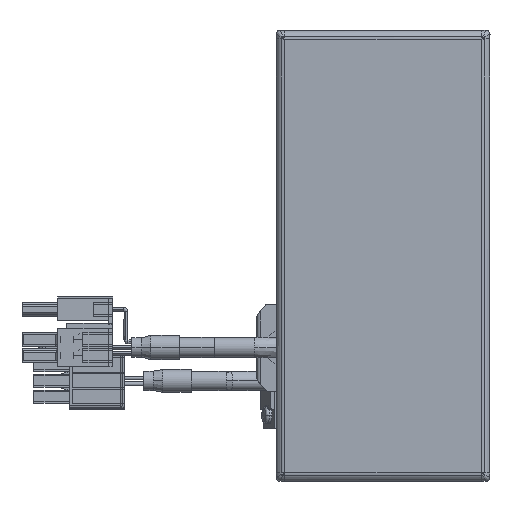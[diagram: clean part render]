
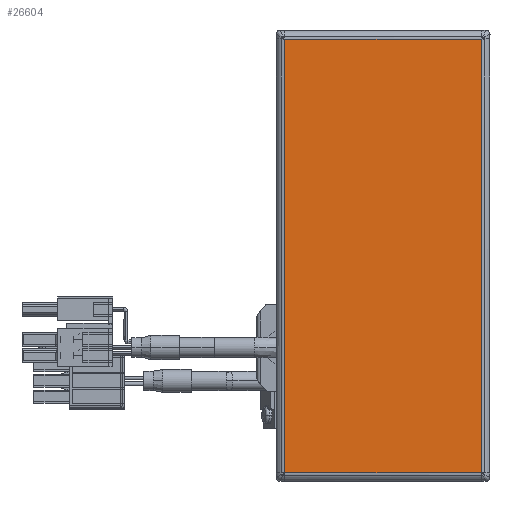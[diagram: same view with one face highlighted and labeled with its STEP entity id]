
A CAD part, top view. The second image highlights one B-rep face of the part: STEP entity #26604.
In plain terms, the highlighted planar face has unit normal (0, 0, 1) as drawn and (0, 0, -1) by its records, which use the part's own axes.
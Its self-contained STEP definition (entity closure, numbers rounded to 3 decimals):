
#1550 = DIRECTION ( 'NONE',  ( 1., 0., 0. ) ) ;
#5171 = CARTESIAN_POINT ( 'NONE',  ( 56.763, -25.763, -1.5 ) ) ;
#5690 = VECTOR ( 'NONE', #9422, 1000. ) ;
#6158 = CARTESIAN_POINT ( 'NONE',  ( -56.793, 25.763, -1.5 ) ) ;
#9422 = DIRECTION ( 'NONE',  ( 0., -1., 0. ) ) ;
#9455 = EDGE_CURVE ( 'NONE', #31886, #40721, #51953, .T. ) ;
#10903 = EDGE_CURVE ( 'NONE', #43148, #31886, #23164, .T. ) ;
#12215 = EDGE_CURVE ( 'NONE', #20283, #43148, #12244, .T. ) ;
#12244 = LINE ( 'NONE', #47767, #35445 ) ;
#13733 = FACE_OUTER_BOUND ( 'NONE', #25928, .T. ) ;
#14177 = CARTESIAN_POINT ( 'NONE',  ( 56.763, 25.763, -1.5 ) ) ;
#17192 = AXIS2_PLACEMENT_3D ( 'NONE', #44545, #48797, #53847 ) ;
#18495 = ORIENTED_EDGE ( 'NONE', *, *, #29163, .T. ) ;
#20283 = VERTEX_POINT ( 'NONE', #56093 ) ;
#22824 = VECTOR ( 'NONE', #31898, 1000. ) ;
#23164 = LINE ( 'NONE', #6158, #44843 ) ;
#25928 = EDGE_LOOP ( 'NONE', ( #34023, #18495, #34066, #53462 ) ) ;
#26604 = ADVANCED_FACE ( 'NONE', ( #13733 ), #49208, .T. ) ;
#27249 = CARTESIAN_POINT ( 'NONE',  ( 56.793, -25.763, -1.5 ) ) ;
#29163 = EDGE_CURVE ( 'NONE', #40721, #20283, #59715, .T. ) ;
#31886 = VERTEX_POINT ( 'NONE', #14177 ) ;
#31898 = DIRECTION ( 'NONE',  ( -1., 0., 0. ) ) ;
#34023 = ORIENTED_EDGE ( 'NONE', *, *, #9455, .T. ) ;
#34066 = ORIENTED_EDGE ( 'NONE', *, *, #12215, .T. ) ;
#35445 = VECTOR ( 'NONE', #38708, 1000. ) ;
#38708 = DIRECTION ( 'NONE',  ( 0., 1., 0. ) ) ;
#40721 = VERTEX_POINT ( 'NONE', #5171 ) ;
#41533 = CARTESIAN_POINT ( 'NONE',  ( -56.763, 25.763, -1.5 ) ) ;
#41756 = CARTESIAN_POINT ( 'NONE',  ( 56.763, 25.793, -1.5 ) ) ;
#43148 = VERTEX_POINT ( 'NONE', #41533 ) ;
#44545 = CARTESIAN_POINT ( 'NONE',  ( 0., 0., -1.5 ) ) ;
#44843 = VECTOR ( 'NONE', #1550, 1000. ) ;
#47767 = CARTESIAN_POINT ( 'NONE',  ( -56.763, -25.793, -1.5 ) ) ;
#48797 = DIRECTION ( 'NONE',  ( 0., 0., -1. ) ) ;
#49208 = PLANE ( 'NONE',  #17192 ) ;
#51953 = LINE ( 'NONE', #41756, #5690 ) ;
#53462 = ORIENTED_EDGE ( 'NONE', *, *, #10903, .T. ) ;
#53847 = DIRECTION ( 'NONE',  ( -1., 0., 0. ) ) ;
#56093 = CARTESIAN_POINT ( 'NONE',  ( -56.763, -25.763, -1.5 ) ) ;
#59715 = LINE ( 'NONE', #27249, #22824 ) ;
